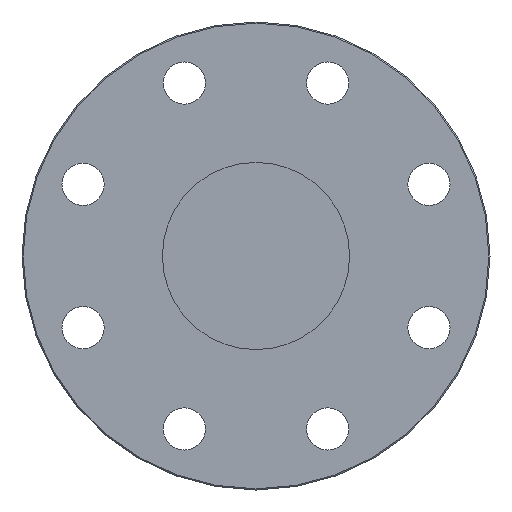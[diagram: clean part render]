
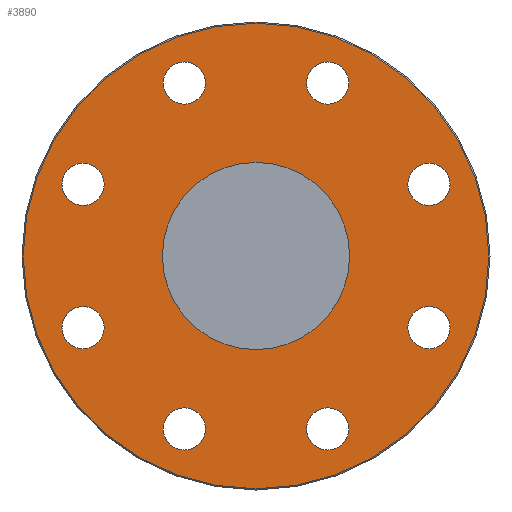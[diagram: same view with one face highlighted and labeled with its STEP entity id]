
A CAD part, left-side view. The second image highlights one B-rep face of the part: STEP entity #3890.
In plain terms, the highlighted planar face has unit normal (-1, 0, 0).
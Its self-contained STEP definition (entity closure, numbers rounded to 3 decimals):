
#95=CIRCLE('',#4110,9.);
#96=CIRCLE('',#4111,9.);
#98=CIRCLE('',#4115,9.);
#99=CIRCLE('',#4116,9.);
#101=CIRCLE('',#4120,9.);
#102=CIRCLE('',#4121,9.);
#104=CIRCLE('',#4125,9.);
#105=CIRCLE('',#4126,9.);
#107=CIRCLE('',#4130,9.);
#108=CIRCLE('',#4131,9.);
#110=CIRCLE('',#4135,9.);
#111=CIRCLE('',#4136,9.);
#113=CIRCLE('',#4140,9.);
#114=CIRCLE('',#4141,9.);
#116=CIRCLE('',#4145,9.);
#117=CIRCLE('',#4146,9.);
#131=CIRCLE('',#4168,99.5);
#132=CIRCLE('',#4170,40.);
#943=FACE_BOUND('',#1410,.T.);
#944=FACE_BOUND('',#1411,.T.);
#945=FACE_BOUND('',#1412,.T.);
#946=FACE_BOUND('',#1413,.T.);
#947=FACE_BOUND('',#1414,.T.);
#948=FACE_BOUND('',#1415,.T.);
#949=FACE_BOUND('',#1416,.T.);
#950=FACE_BOUND('',#1417,.T.);
#951=FACE_BOUND('',#1418,.T.);
#1154=FACE_OUTER_BOUND('',#1409,.T.);
#1409=EDGE_LOOP('',(#3524));
#1410=EDGE_LOOP('',(#3525,#3526));
#1411=EDGE_LOOP('',(#3527,#3528));
#1412=EDGE_LOOP('',(#3529,#3530));
#1413=EDGE_LOOP('',(#3531,#3532));
#1414=EDGE_LOOP('',(#3533,#3534));
#1415=EDGE_LOOP('',(#3535,#3536));
#1416=EDGE_LOOP('',(#3537,#3538));
#1417=EDGE_LOOP('',(#3539,#3540));
#1418=EDGE_LOOP('',(#3541));
#1861=VERTEX_POINT('',#7079);
#1862=VERTEX_POINT('',#7080);
#1864=VERTEX_POINT('',#7089);
#1865=VERTEX_POINT('',#7090);
#1867=VERTEX_POINT('',#7099);
#1868=VERTEX_POINT('',#7100);
#1870=VERTEX_POINT('',#7109);
#1871=VERTEX_POINT('',#7110);
#1873=VERTEX_POINT('',#7119);
#1874=VERTEX_POINT('',#7120);
#1876=VERTEX_POINT('',#7129);
#1877=VERTEX_POINT('',#7130);
#1879=VERTEX_POINT('',#7139);
#1880=VERTEX_POINT('',#7140);
#1882=VERTEX_POINT('',#7149);
#1883=VERTEX_POINT('',#7150);
#1897=VERTEX_POINT('',#7194);
#1898=VERTEX_POINT('',#7198);
#2389=EDGE_CURVE('',#1861,#1862,#95,.T.);
#2390=EDGE_CURVE('',#1862,#1861,#96,.T.);
#2394=EDGE_CURVE('',#1864,#1865,#98,.T.);
#2395=EDGE_CURVE('',#1865,#1864,#99,.T.);
#2399=EDGE_CURVE('',#1867,#1868,#101,.T.);
#2400=EDGE_CURVE('',#1868,#1867,#102,.T.);
#2404=EDGE_CURVE('',#1870,#1871,#104,.T.);
#2405=EDGE_CURVE('',#1871,#1870,#105,.T.);
#2409=EDGE_CURVE('',#1873,#1874,#107,.T.);
#2410=EDGE_CURVE('',#1874,#1873,#108,.T.);
#2414=EDGE_CURVE('',#1876,#1877,#110,.T.);
#2415=EDGE_CURVE('',#1877,#1876,#111,.T.);
#2419=EDGE_CURVE('',#1879,#1880,#113,.T.);
#2420=EDGE_CURVE('',#1880,#1879,#114,.T.);
#2424=EDGE_CURVE('',#1882,#1883,#116,.T.);
#2425=EDGE_CURVE('',#1883,#1882,#117,.T.);
#2447=EDGE_CURVE('',#1897,#1897,#131,.T.);
#2448=EDGE_CURVE('',#1898,#1898,#132,.T.);
#3524=ORIENTED_EDGE('',*,*,#2447,.F.);
#3525=ORIENTED_EDGE('',*,*,#2389,.T.);
#3526=ORIENTED_EDGE('',*,*,#2390,.T.);
#3527=ORIENTED_EDGE('',*,*,#2394,.T.);
#3528=ORIENTED_EDGE('',*,*,#2395,.T.);
#3529=ORIENTED_EDGE('',*,*,#2399,.T.);
#3530=ORIENTED_EDGE('',*,*,#2400,.T.);
#3531=ORIENTED_EDGE('',*,*,#2404,.T.);
#3532=ORIENTED_EDGE('',*,*,#2405,.T.);
#3533=ORIENTED_EDGE('',*,*,#2409,.T.);
#3534=ORIENTED_EDGE('',*,*,#2410,.T.);
#3535=ORIENTED_EDGE('',*,*,#2414,.T.);
#3536=ORIENTED_EDGE('',*,*,#2415,.T.);
#3537=ORIENTED_EDGE('',*,*,#2419,.T.);
#3538=ORIENTED_EDGE('',*,*,#2420,.T.);
#3539=ORIENTED_EDGE('',*,*,#2424,.T.);
#3540=ORIENTED_EDGE('',*,*,#2425,.T.);
#3541=ORIENTED_EDGE('',*,*,#2448,.T.);
#3667=PLANE('',#4169);
#3890=ADVANCED_FACE('',(#1154,#943,#944,#945,#946,#947,#948,#949,#950,#951),
#3667,.T.);
#4110=AXIS2_PLACEMENT_3D('',#7081,#4872,#4873);
#4111=AXIS2_PLACEMENT_3D('',#7082,#4874,#4875);
#4115=AXIS2_PLACEMENT_3D('',#7091,#4884,#4885);
#4116=AXIS2_PLACEMENT_3D('',#7092,#4886,#4887);
#4120=AXIS2_PLACEMENT_3D('',#7101,#4896,#4897);
#4121=AXIS2_PLACEMENT_3D('',#7102,#4898,#4899);
#4125=AXIS2_PLACEMENT_3D('',#7111,#4908,#4909);
#4126=AXIS2_PLACEMENT_3D('',#7112,#4910,#4911);
#4130=AXIS2_PLACEMENT_3D('',#7121,#4920,#4921);
#4131=AXIS2_PLACEMENT_3D('',#7122,#4922,#4923);
#4135=AXIS2_PLACEMENT_3D('',#7131,#4932,#4933);
#4136=AXIS2_PLACEMENT_3D('',#7132,#4934,#4935);
#4140=AXIS2_PLACEMENT_3D('',#7141,#4944,#4945);
#4141=AXIS2_PLACEMENT_3D('',#7142,#4946,#4947);
#4145=AXIS2_PLACEMENT_3D('',#7151,#4956,#4957);
#4146=AXIS2_PLACEMENT_3D('',#7152,#4958,#4959);
#4168=AXIS2_PLACEMENT_3D('',#7196,#5010,#5011);
#4169=AXIS2_PLACEMENT_3D('',#7197,#5012,#5013);
#4170=AXIS2_PLACEMENT_3D('',#7199,#5014,#5015);
#4872=DIRECTION('center_axis',(1.,0.,0.));
#4873=DIRECTION('ref_axis',(0.,0.,1.));
#4874=DIRECTION('center_axis',(1.,0.,0.));
#4875=DIRECTION('ref_axis',(0.,0.,1.));
#4884=DIRECTION('center_axis',(1.,0.,0.));
#4885=DIRECTION('ref_axis',(0.,0.,1.));
#4886=DIRECTION('center_axis',(1.,0.,0.));
#4887=DIRECTION('ref_axis',(0.,0.,1.));
#4896=DIRECTION('center_axis',(1.,0.,0.));
#4897=DIRECTION('ref_axis',(0.,0.,1.));
#4898=DIRECTION('center_axis',(1.,0.,0.));
#4899=DIRECTION('ref_axis',(0.,0.,1.));
#4908=DIRECTION('center_axis',(1.,0.,0.));
#4909=DIRECTION('ref_axis',(0.,0.,1.));
#4910=DIRECTION('center_axis',(1.,0.,0.));
#4911=DIRECTION('ref_axis',(0.,0.,1.));
#4920=DIRECTION('center_axis',(1.,0.,0.));
#4921=DIRECTION('ref_axis',(0.,0.,1.));
#4922=DIRECTION('center_axis',(1.,0.,0.));
#4923=DIRECTION('ref_axis',(0.,0.,1.));
#4932=DIRECTION('center_axis',(1.,0.,0.));
#4933=DIRECTION('ref_axis',(0.,0.,1.));
#4934=DIRECTION('center_axis',(1.,0.,0.));
#4935=DIRECTION('ref_axis',(0.,0.,1.));
#4944=DIRECTION('center_axis',(1.,0.,0.));
#4945=DIRECTION('ref_axis',(0.,0.,1.));
#4946=DIRECTION('center_axis',(1.,0.,0.));
#4947=DIRECTION('ref_axis',(0.,0.,1.));
#4956=DIRECTION('center_axis',(1.,0.,0.));
#4957=DIRECTION('ref_axis',(0.,0.,1.));
#4958=DIRECTION('center_axis',(1.,0.,0.));
#4959=DIRECTION('ref_axis',(0.,0.,1.));
#5010=DIRECTION('center_axis',(1.,0.,0.));
#5011=DIRECTION('ref_axis',(0.,-1.,0.));
#5012=DIRECTION('center_axis',(-1.,0.,0.));
#5013=DIRECTION('ref_axis',(0.,0.,1.));
#5014=DIRECTION('center_axis',(1.,0.,0.));
#5015=DIRECTION('ref_axis',(0.,0.,-1.));
#7079=CARTESIAN_POINT('',(-62.5,73.91,39.615));
#7080=CARTESIAN_POINT('',(-62.5,73.91,21.615));
#7081=CARTESIAN_POINT('Origin',(-62.5,73.91,30.615));
#7082=CARTESIAN_POINT('Origin',(-62.5,73.91,30.615));
#7089=CARTESIAN_POINT('',(-62.5,30.615,82.91));
#7090=CARTESIAN_POINT('',(-62.5,30.615,64.91));
#7091=CARTESIAN_POINT('Origin',(-62.5,30.615,73.91));
#7092=CARTESIAN_POINT('Origin',(-62.5,30.615,73.91));
#7099=CARTESIAN_POINT('',(-62.5,-30.615,82.91));
#7100=CARTESIAN_POINT('',(-62.5,-30.615,64.91));
#7101=CARTESIAN_POINT('Origin',(-62.5,-30.615,73.91));
#7102=CARTESIAN_POINT('Origin',(-62.5,-30.615,73.91));
#7109=CARTESIAN_POINT('',(-62.5,-73.91,39.615));
#7110=CARTESIAN_POINT('',(-62.5,-73.91,21.615));
#7111=CARTESIAN_POINT('Origin',(-62.5,-73.91,30.615));
#7112=CARTESIAN_POINT('Origin',(-62.5,-73.91,30.615));
#7119=CARTESIAN_POINT('',(-62.5,-73.91,-21.615));
#7120=CARTESIAN_POINT('',(-62.5,-73.91,-39.615));
#7121=CARTESIAN_POINT('Origin',(-62.5,-73.91,-30.615));
#7122=CARTESIAN_POINT('Origin',(-62.5,-73.91,-30.615));
#7129=CARTESIAN_POINT('',(-62.5,-30.615,-64.91));
#7130=CARTESIAN_POINT('',(-62.5,-30.615,-82.91));
#7131=CARTESIAN_POINT('Origin',(-62.5,-30.615,-73.91));
#7132=CARTESIAN_POINT('Origin',(-62.5,-30.615,-73.91));
#7139=CARTESIAN_POINT('',(-62.5,30.615,-64.91));
#7140=CARTESIAN_POINT('',(-62.5,30.615,-82.91));
#7141=CARTESIAN_POINT('Origin',(-62.5,30.615,-73.91));
#7142=CARTESIAN_POINT('Origin',(-62.5,30.615,-73.91));
#7149=CARTESIAN_POINT('',(-62.5,73.91,-21.615));
#7150=CARTESIAN_POINT('',(-62.5,73.91,-39.615));
#7151=CARTESIAN_POINT('Origin',(-62.5,73.91,-30.615));
#7152=CARTESIAN_POINT('Origin',(-62.5,73.91,-30.615));
#7194=CARTESIAN_POINT('',(-62.5,99.5,0.));
#7196=CARTESIAN_POINT('Origin',(-62.5,0.,0.));
#7197=CARTESIAN_POINT('Origin',(-62.5,50.,0.));
#7198=CARTESIAN_POINT('',(-62.5,0.,40.));
#7199=CARTESIAN_POINT('Origin',(-62.5,0.,0.));
